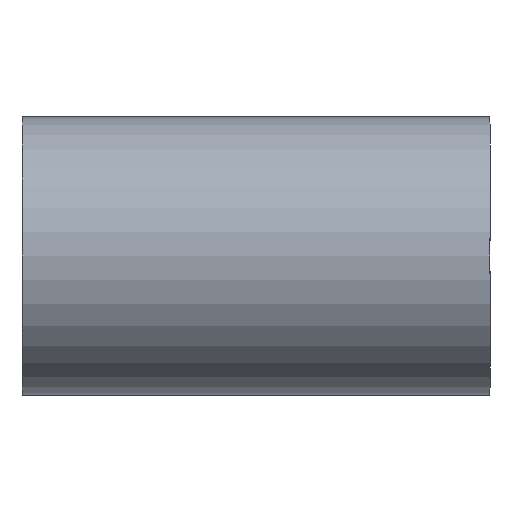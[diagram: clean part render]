
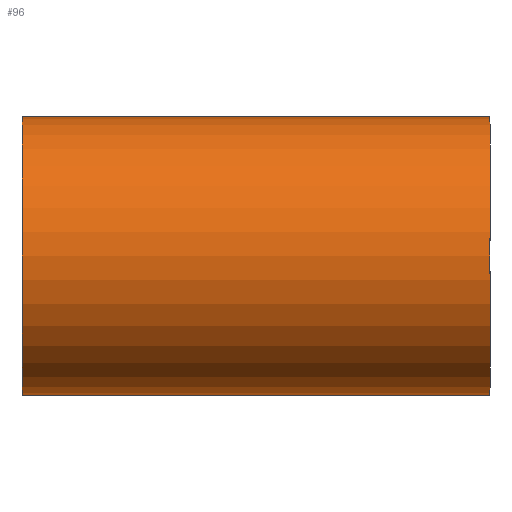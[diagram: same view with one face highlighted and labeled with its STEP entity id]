
A CAD part, front view. The second image highlights one B-rep face of the part: STEP entity #96.
In plain terms, the highlighted cylindrical face has radius 12.5 mm (diameter 25 mm), a full revolution.
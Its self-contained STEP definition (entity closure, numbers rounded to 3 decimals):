
#16=CYLINDRICAL_SURFACE('',#108,12.5);
#21=FACE_BOUND('',#39,.T.);
#29=FACE_OUTER_BOUND('',#38,.T.);
#38=EDGE_LOOP('',(#78));
#39=EDGE_LOOP('',(#79));
#52=CIRCLE('',#106,12.5);
#54=CIRCLE('',#109,12.5);
#60=VERTEX_POINT('',#157);
#62=VERTEX_POINT('',#162);
#68=EDGE_CURVE('',#60,#60,#52,.T.);
#70=EDGE_CURVE('',#62,#62,#54,.T.);
#78=ORIENTED_EDGE('',*,*,#68,.T.);
#79=ORIENTED_EDGE('',*,*,#70,.F.);
#96=ADVANCED_FACE('',(#29,#21),#16,.T.);
#106=AXIS2_PLACEMENT_3D('',#158,#125,#126);
#108=AXIS2_PLACEMENT_3D('',#161,#129,#130);
#109=AXIS2_PLACEMENT_3D('',#163,#131,#132);
#125=DIRECTION('center_axis',(-1.,0.,0.));
#126=DIRECTION('ref_axis',(0.,0.,1.));
#129=DIRECTION('center_axis',(-1.,0.,0.));
#130=DIRECTION('ref_axis',(0.,-1.,0.));
#131=DIRECTION('center_axis',(-1.,0.,0.));
#132=DIRECTION('ref_axis',(0.,0.,1.));
#157=CARTESIAN_POINT('',(21.,-12.5,0.));
#158=CARTESIAN_POINT('Origin',(21.,0.,0.));
#161=CARTESIAN_POINT('Origin',(-11.5,0.,0.));
#162=CARTESIAN_POINT('',(-21.,-12.5,0.));
#163=CARTESIAN_POINT('Origin',(-21.,0.,0.));
